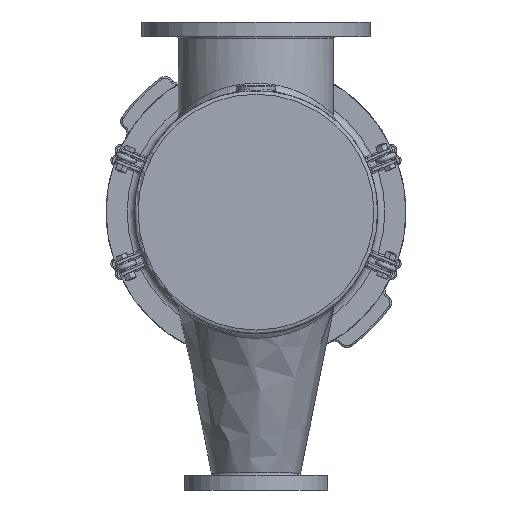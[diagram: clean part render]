
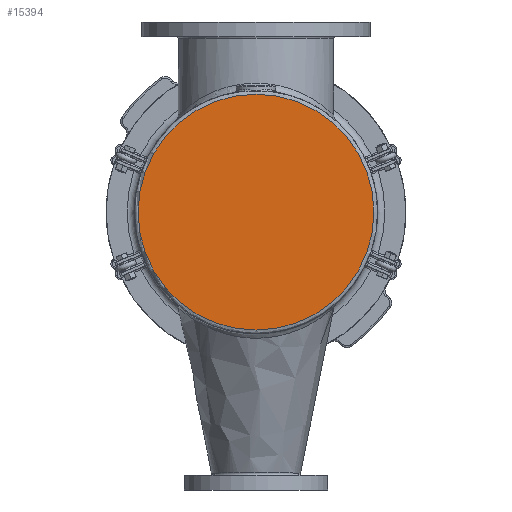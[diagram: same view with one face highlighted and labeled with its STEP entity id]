
A CAD part, front view. The second image highlights one B-rep face of the part: STEP entity #15394.
In plain terms, the highlighted planar face has unit normal (0, -1, 0).
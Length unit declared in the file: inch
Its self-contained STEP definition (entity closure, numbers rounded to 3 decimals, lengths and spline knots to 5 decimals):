
#2229=PLANE('',#16427);
#3496=FACE_OUTER_BOUND('',#4485,.T.);
#4485=EDGE_LOOP('',(#10295));
#5685=CIRCLE('',#16419,8.0625);
#6653=VERTEX_POINT('',#23572);
#8054=EDGE_CURVE('',#6653,#6653,#5685,.T.);
#10295=ORIENTED_EDGE('',*,*,#8054,.F.);
#15394=ADVANCED_FACE('',(#3496),#2229,.F.);
#16419=AXIS2_PLACEMENT_3D('',#23573,#18450,#18451);
#16427=AXIS2_PLACEMENT_3D('',#23584,#18466,#18467);
#18450=DIRECTION('center_axis',(0.,1.,0.));
#18451=DIRECTION('ref_axis',(1.,0.,0.));
#18466=DIRECTION('center_axis',(0.,1.,0.));
#18467=DIRECTION('ref_axis',(0.,0.,1.));
#23572=CARTESIAN_POINT('',(-8.0625,0.,0.));
#23573=CARTESIAN_POINT('Origin',(0.,0.,0.));
#23584=CARTESIAN_POINT('Origin',(0.,0.,0.));
